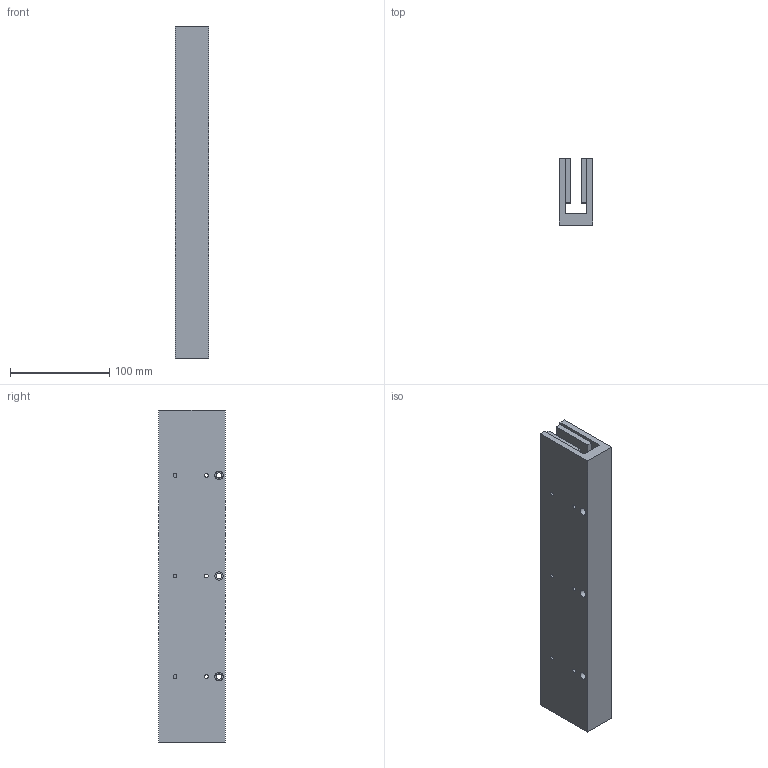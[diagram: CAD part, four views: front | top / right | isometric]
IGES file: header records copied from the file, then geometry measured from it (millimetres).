
Global section: file name: No Iges File Name specified; native system: Autodesk Inventor 2009; preprocessor: AutoDesk Inventor Iges Exporter R2009; author: je17857; date: 20091116.111449; units: inch
Bounding box: 34.29 x 67.31 x 335.28 mm (x, y, z)
Volume: 501748.6 mm3; surface area: 127503.2 mm2
Topology: 1 solids, 1 shells, 174 faces, 414 edges, 276 vertices
Faces by surface type: plane 126, bspline 48
